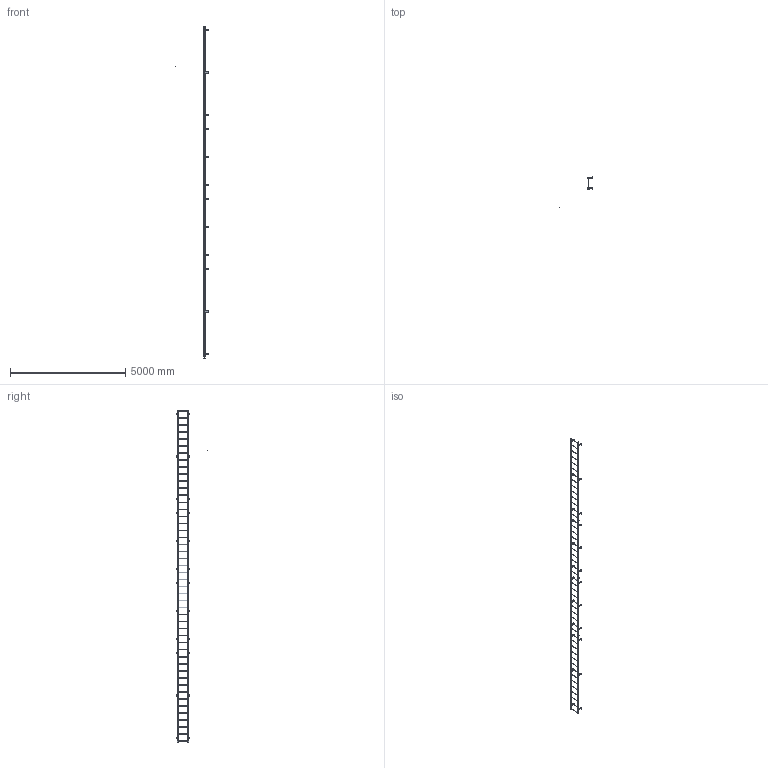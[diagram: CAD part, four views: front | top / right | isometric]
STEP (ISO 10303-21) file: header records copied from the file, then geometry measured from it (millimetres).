
FILE_DESCRIPTION(/* description */ (''),/* implementation_level */ '2;1');
FILE_NAME(/* name */ 'P:\MIKEL & KAREN\3570364 F48S SIMPLIFIED PART.stp',/* time_stamp */ '2018-07-02T16:07:13-04:00',/* author */ ('stephanie'),/* organization */ (''),/* preprocessor_version */ 'ST-DEVELOPER v16.1',/* originating_system */ 'Autodesk Inventor 2016',/* authorisation */ '');
FILE_SCHEMA (('AUTOMOTIVE_DESIGN { 1 0 10303 214 3 1 1 }'));
Length unit declared in the file: centimetre
Products named in the file (1): 3570364 F48S SIMPLIFIED PART
Bounding box: 1442.81 x 1317.19 x 14401.8 mm (x, y, z)
Volume: 25010669.3 mm3; surface area: 7512312.9 mm2
Topology: 51 solids, 51 shells, 715 faces, 1917 edges, 1280 vertices
Faces by surface type: plane 420, cylinder 295
Full cylindrical faces by diameter (mm): 0.254 x1, 14.287 x30, 19.05 x48, 22.225 x96
Entity records: 21747 total; most frequent: DIRECTION 3686, CARTESIAN_POINT 3486, ORIENTED_EDGE 3232, EDGE_CURVE 1616, AXIS2_PLACEMENT_3D 1354, VERTEX_POINT 1154, EDGE_LOOP 1142, LINE 978
